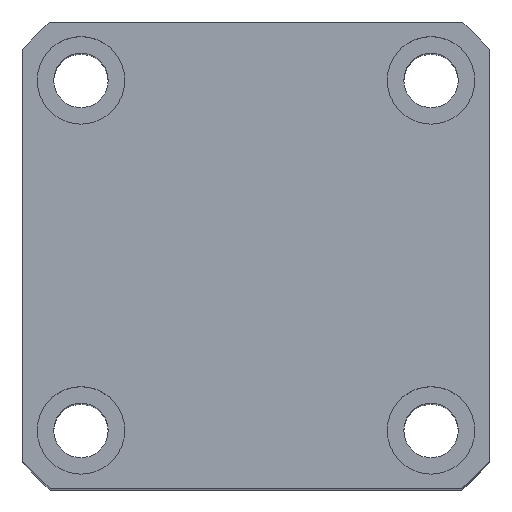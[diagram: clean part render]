
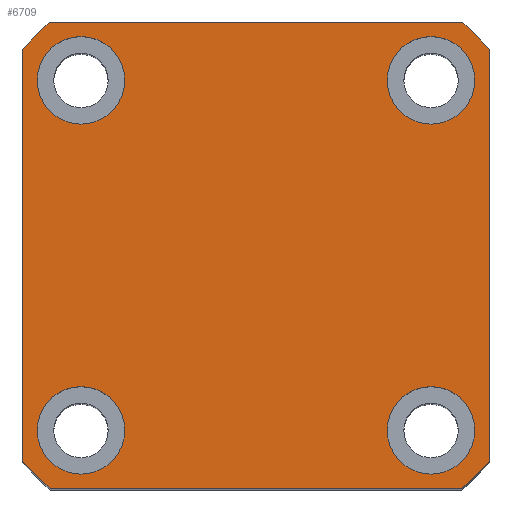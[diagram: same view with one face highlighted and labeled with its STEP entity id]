
A CAD part, top view. The second image highlights one B-rep face of the part: STEP entity #6709.
In plain terms, the highlighted planar face has unit normal (0, 0, 1) as drawn and (1, 0, 0) by its records, which use the part's own axes.
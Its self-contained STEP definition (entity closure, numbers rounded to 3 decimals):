
#11 = CIRCLE ( 'NONE', #1683, 32. ) ;
#32 = DIRECTION ( 'NONE',  ( 1., 0., 0. ) ) ;
#111 = ORIENTED_EDGE ( 'NONE', *, *, #9207, .F. ) ;
#148 = CARTESIAN_POINT ( 'NONE',  ( 75., -18., -18. ) ) ;
#149 = DIRECTION ( 'NONE',  ( 0., 0., 1. ) ) ;
#361 = CARTESIAN_POINT ( 'NONE',  ( 75., 24., 21.166 ) ) ;
#405 = VERTEX_POINT ( 'NONE', #8386 ) ;
#451 = CIRCLE ( 'NONE', #676, 32. ) ;
#516 = VERTEX_POINT ( 'NONE', #3495 ) ;
#570 = VERTEX_POINT ( 'NONE', #7149 ) ;
#590 = CARTESIAN_POINT ( 'NONE',  ( 75., 18., 18. ) ) ;
#649 = VERTEX_POINT ( 'NONE', #7686 ) ;
#676 = AXIS2_PLACEMENT_3D ( 'NONE', #7288, #6881, #6739 ) ;
#748 = ORIENTED_EDGE ( 'NONE', *, *, #3483, .T. ) ;
#794 = VERTEX_POINT ( 'NONE', #6184 ) ;
#835 = DIRECTION ( 'NONE',  ( 0., 0., -1. ) ) ;
#875 = DIRECTION ( 'NONE',  ( 0., 0., -1. ) ) ;
#991 = ORIENTED_EDGE ( 'NONE', *, *, #1005, .F. ) ;
#1005 = EDGE_CURVE ( 'NONE', #4837, #405, #9542, .T. ) ;
#1036 = DIRECTION ( 'NONE',  ( 0., 0., -1. ) ) ;
#1058 = CIRCLE ( 'NONE', #3553, 4.5 ) ;
#1102 = DIRECTION ( 'NONE',  ( 1., 0., 0. ) ) ;
#1139 = CARTESIAN_POINT ( 'NONE',  ( 75., 0., 0. ) ) ;
#1188 = DIRECTION ( 'NONE',  ( 0., 0., -1. ) ) ;
#1344 = DIRECTION ( 'NONE',  ( 1., 0., 0. ) ) ;
#1396 = DIRECTION ( 'NONE',  ( 1., 0., 0. ) ) ;
#1640 = FACE_BOUND ( 'NONE', #3394, .T. ) ;
#1683 = AXIS2_PLACEMENT_3D ( 'NONE', #1139, #1102, #1188 ) ;
#1698 = VECTOR ( 'NONE', #6939, 1000. ) ;
#1700 = VERTEX_POINT ( 'NONE', #361 ) ;
#1761 = CARTESIAN_POINT ( 'NONE',  ( 75., 18., 13.5 ) ) ;
#1907 = FACE_BOUND ( 'NONE', #7299, .T. ) ;
#1962 = VERTEX_POINT ( 'NONE', #2730 ) ;
#2050 = CARTESIAN_POINT ( 'NONE',  ( 75., 0., 0. ) ) ;
#2275 = CARTESIAN_POINT ( 'NONE',  ( 75., 18., -13.5 ) ) ;
#2307 = CARTESIAN_POINT ( 'NONE',  ( 75., 24., 24. ) ) ;
#2378 = CIRCLE ( 'NONE', #6931, 4.5 ) ;
#2576 = DIRECTION ( 'NONE',  ( 0., 0., -1. ) ) ;
#2657 = EDGE_CURVE ( 'NONE', #7811, #570, #8688, .T. ) ;
#2730 = CARTESIAN_POINT ( 'NONE',  ( 75., 18., -22.5 ) ) ;
#2749 = CARTESIAN_POINT ( 'NONE',  ( 75., 24., 24. ) ) ;
#2768 = CIRCLE ( 'NONE', #6783, 32. ) ;
#2794 = ORIENTED_EDGE ( 'NONE', *, *, #2657, .T. ) ;
#2891 = DIRECTION ( 'NONE',  ( 0., 0., -1. ) ) ;
#2911 = CARTESIAN_POINT ( 'NONE',  ( 75., 18., -18. ) ) ;
#3032 = EDGE_CURVE ( 'NONE', #794, #649, #9299, .T. ) ;
#3050 = AXIS2_PLACEMENT_3D ( 'NONE', #2911, #8693, #3756 ) ;
#3099 = EDGE_CURVE ( 'NONE', #570, #5752, #451, .T. ) ;
#3208 = VERTEX_POINT ( 'NONE', #2275 ) ;
#3394 = EDGE_LOOP ( 'NONE', ( #5190, #10301 ) ) ;
#3483 = EDGE_CURVE ( 'NONE', #5752, #7994, #4809, .T. ) ;
#3495 = CARTESIAN_POINT ( 'NONE',  ( 75., 24., -21.166 ) ) ;
#3553 = AXIS2_PLACEMENT_3D ( 'NONE', #10660, #5869, #835 ) ;
#3665 = CARTESIAN_POINT ( 'NONE',  ( 75., -18., 13.5 ) ) ;
#3703 = CARTESIAN_POINT ( 'NONE',  ( 75., -18., 22.5 ) ) ;
#3704 = CARTESIAN_POINT ( 'NONE',  ( 75., 18., -18. ) ) ;
#3756 = DIRECTION ( 'NONE',  ( 0., 0., -1. ) ) ;
#3764 = CARTESIAN_POINT ( 'NONE',  ( 75., -21.166, -24. ) ) ;
#3876 = CARTESIAN_POINT ( 'NONE',  ( 75., 0., 0. ) ) ;
#4130 = FACE_BOUND ( 'NONE', #6060, .T. ) ;
#4152 = CIRCLE ( 'NONE', #9720, 4.5 ) ;
#4193 = EDGE_CURVE ( 'NONE', #7994, #516, #11, .T. ) ;
#4216 = EDGE_CURVE ( 'NONE', #405, #4837, #4534, .T. ) ;
#4292 = VECTOR ( 'NONE', #9251, 1000. ) ;
#4532 = DIRECTION ( 'NONE',  ( 0., 0., -1. ) ) ;
#4534 = CIRCLE ( 'NONE', #6165, 4.5 ) ;
#4571 = AXIS2_PLACEMENT_3D ( 'NONE', #148, #6064, #1036 ) ;
#4707 = DIRECTION ( 'NONE',  ( 0., 0., -1. ) ) ;
#4808 = EDGE_CURVE ( 'NONE', #7850, #6325, #4152, .T. ) ;
#4809 = LINE ( 'NONE', #5282, #4292 ) ;
#4837 = VERTEX_POINT ( 'NONE', #1761 ) ;
#4993 = EDGE_CURVE ( 'NONE', #516, #1700, #7518, .T. ) ;
#5079 = CARTESIAN_POINT ( 'NONE',  ( 75., 0., 0. ) ) ;
#5080 = AXIS2_PLACEMENT_3D ( 'NONE', #5079, #5916, #875 ) ;
#5117 = CARTESIAN_POINT ( 'NONE',  ( 75., -18., 18. ) ) ;
#5190 = ORIENTED_EDGE ( 'NONE', *, *, #8484, .F. ) ;
#5231 = ORIENTED_EDGE ( 'NONE', *, *, #4193, .T. ) ;
#5282 = CARTESIAN_POINT ( 'NONE',  ( 75., 24., -24. ) ) ;
#5409 = ORIENTED_EDGE ( 'NONE', *, *, #4993, .T. ) ;
#5568 = VECTOR ( 'NONE', #149, 1000. ) ;
#5752 = VERTEX_POINT ( 'NONE', #3764 ) ;
#5827 = CARTESIAN_POINT ( 'NONE',  ( 75., 18., 18. ) ) ;
#5869 = DIRECTION ( 'NONE',  ( 1., 0., 0. ) ) ;
#5916 = DIRECTION ( 'NONE',  ( 1., 0., 0. ) ) ;
#5930 = DIRECTION ( 'NONE',  ( 0., 0., -1. ) ) ;
#5955 = DIRECTION ( 'NONE',  ( 0., 0., -1. ) ) ;
#6060 = EDGE_LOOP ( 'NONE', ( #991, #9245 ) ) ;
#6064 = DIRECTION ( 'NONE',  ( 1., 0., 0. ) ) ;
#6165 = AXIS2_PLACEMENT_3D ( 'NONE', #590, #1344, #2576 ) ;
#6184 = CARTESIAN_POINT ( 'NONE',  ( 75., -18., -13.5 ) ) ;
#6325 = VERTEX_POINT ( 'NONE', #3665 ) ;
#6345 = EDGE_LOOP ( 'NONE', ( #748, #5231, #5409, #9932, #7511, #6477, #2794, #7866 ) ) ;
#6477 = ORIENTED_EDGE ( 'NONE', *, *, #9533, .T. ) ;
#6709 = ADVANCED_FACE ( 'NONE', ( #1640, #1907, #8271, #4130, #10077 ), #9912, .T. ) ;
#6739 = DIRECTION ( 'NONE',  ( 0., 0., -1. ) ) ;
#6783 = AXIS2_PLACEMENT_3D ( 'NONE', #3876, #9569, #4707 ) ;
#6881 = DIRECTION ( 'NONE',  ( 1., 0., 0. ) ) ;
#6931 = AXIS2_PLACEMENT_3D ( 'NONE', #3704, #9423, #4532 ) ;
#6939 = DIRECTION ( 'NONE',  ( 0., 0., -1. ) ) ;
#7115 = EDGE_LOOP ( 'NONE', ( #111, #7557 ) ) ;
#7149 = CARTESIAN_POINT ( 'NONE',  ( 75., -24., -21.166 ) ) ;
#7288 = CARTESIAN_POINT ( 'NONE',  ( 75., 0., 0. ) ) ;
#7292 = DIRECTION ( 'NONE',  ( 0., -1., 0. ) ) ;
#7299 = EDGE_LOOP ( 'NONE', ( #10069, #8288 ) ) ;
#7511 = ORIENTED_EDGE ( 'NONE', *, *, #7551, .T. ) ;
#7518 = LINE ( 'NONE', #2749, #5568 ) ;
#7551 = EDGE_CURVE ( 'NONE', #10640, #9247, #8489, .T. ) ;
#7557 = ORIENTED_EDGE ( 'NONE', *, *, #10555, .F. ) ;
#7574 = CIRCLE ( 'NONE', #8237, 32. ) ;
#7676 = DIRECTION ( 'NONE',  ( 1., 0., 0. ) ) ;
#7686 = CARTESIAN_POINT ( 'NONE',  ( 75., -18., -22.5 ) ) ;
#7716 = CARTESIAN_POINT ( 'NONE',  ( 75., -18., -18. ) ) ;
#7792 = EDGE_CURVE ( 'NONE', #6325, #7850, #1058, .T. ) ;
#7811 = VERTEX_POINT ( 'NONE', #9874 ) ;
#7850 = VERTEX_POINT ( 'NONE', #3703 ) ;
#7856 = DIRECTION ( 'NONE',  ( 1., 0., 0. ) ) ;
#7866 = ORIENTED_EDGE ( 'NONE', *, *, #3099, .T. ) ;
#7951 = AXIS2_PLACEMENT_3D ( 'NONE', #5827, #1396, #5930 ) ;
#7980 = CARTESIAN_POINT ( 'NONE',  ( 75., 21.166, -24. ) ) ;
#7994 = VERTEX_POINT ( 'NONE', #7980 ) ;
#8237 = AXIS2_PLACEMENT_3D ( 'NONE', #2050, #7856, #2891 ) ;
#8271 = FACE_BOUND ( 'NONE', #7115, .T. ) ;
#8288 = ORIENTED_EDGE ( 'NONE', *, *, #4808, .F. ) ;
#8386 = CARTESIAN_POINT ( 'NONE',  ( 75., 18., 22.5 ) ) ;
#8483 = CIRCLE ( 'NONE', #4571, 4.5 ) ;
#8484 = EDGE_CURVE ( 'NONE', #649, #794, #8483, .T. ) ;
#8489 = LINE ( 'NONE', #2307, #8998 ) ;
#8688 = LINE ( 'NONE', #9898, #1698 ) ;
#8693 = DIRECTION ( 'NONE',  ( 1., 0., 0. ) ) ;
#8730 = CARTESIAN_POINT ( 'NONE',  ( 75., -21.166, 24. ) ) ;
#8998 = VECTOR ( 'NONE', #7292, 1000. ) ;
#9028 = DIRECTION ( 'NONE',  ( 0., 0., -1. ) ) ;
#9207 = EDGE_CURVE ( 'NONE', #1962, #3208, #9220, .T. ) ;
#9220 = CIRCLE ( 'NONE', #3050, 4.5 ) ;
#9240 = AXIS2_PLACEMENT_3D ( 'NONE', #7716, #7676, #9028 ) ;
#9245 = ORIENTED_EDGE ( 'NONE', *, *, #4216, .F. ) ;
#9247 = VERTEX_POINT ( 'NONE', #8730 ) ;
#9251 = DIRECTION ( 'NONE',  ( 0., 1., 0. ) ) ;
#9299 = CIRCLE ( 'NONE', #9240, 4.5 ) ;
#9423 = DIRECTION ( 'NONE',  ( 1., 0., 0. ) ) ;
#9533 = EDGE_CURVE ( 'NONE', #9247, #7811, #2768, .T. ) ;
#9542 = CIRCLE ( 'NONE', #7951, 4.5 ) ;
#9548 = CARTESIAN_POINT ( 'NONE',  ( 75., 21.166, 24. ) ) ;
#9569 = DIRECTION ( 'NONE',  ( 1., 0., 0. ) ) ;
#9720 = AXIS2_PLACEMENT_3D ( 'NONE', #5117, #32, #5955 ) ;
#9874 = CARTESIAN_POINT ( 'NONE',  ( 75., -24., 21.166 ) ) ;
#9898 = CARTESIAN_POINT ( 'NONE',  ( 75., -24., 24. ) ) ;
#9912 = PLANE ( 'NONE',  #5080 ) ;
#9932 = ORIENTED_EDGE ( 'NONE', *, *, #9959, .T. ) ;
#9959 = EDGE_CURVE ( 'NONE', #1700, #10640, #7574, .T. ) ;
#10069 = ORIENTED_EDGE ( 'NONE', *, *, #7792, .F. ) ;
#10077 = FACE_OUTER_BOUND ( 'NONE', #6345, .T. ) ;
#10301 = ORIENTED_EDGE ( 'NONE', *, *, #3032, .F. ) ;
#10555 = EDGE_CURVE ( 'NONE', #3208, #1962, #2378, .T. ) ;
#10640 = VERTEX_POINT ( 'NONE', #9548 ) ;
#10660 = CARTESIAN_POINT ( 'NONE',  ( 75., -18., 18. ) ) ;
